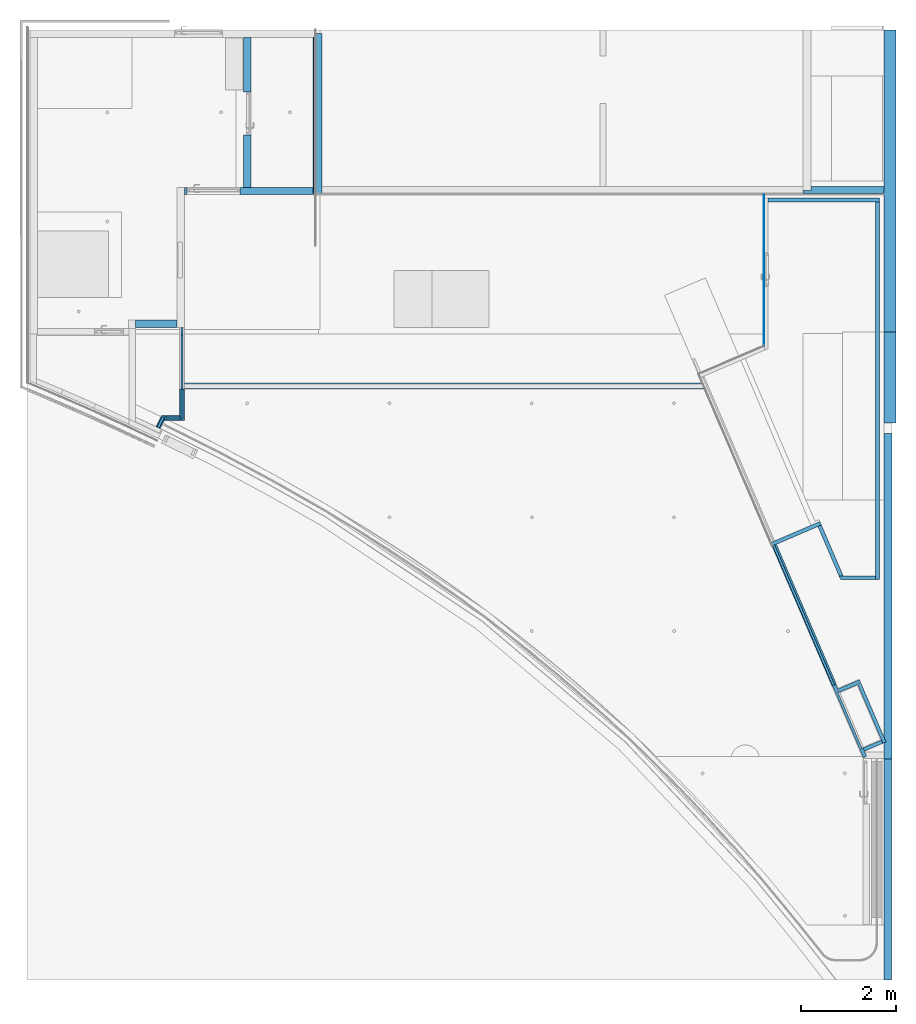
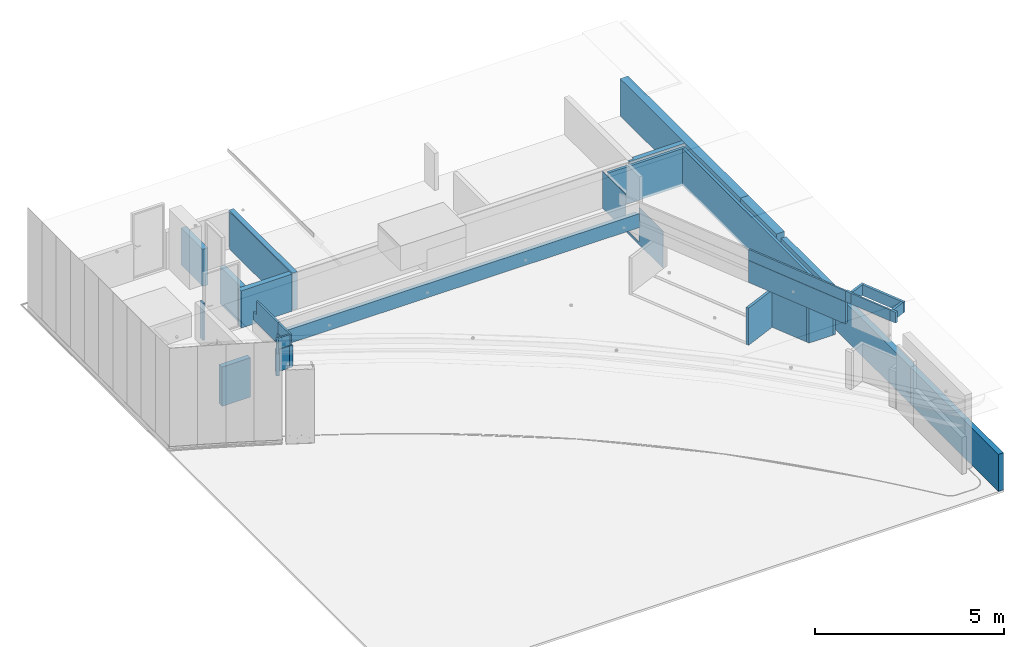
# One storey, part 5 of 16: 32 walls, 2 openings.
"""IFC2X3 building model written with IfcOpenShell, lengths in millimetres."""

from ifc_helpers import new_model, entity, si_unit, converted_unit, derived_unit, direction, frame, frame_2d, origin, origin_with_axes, origin_2d_with_axis, place, context, subcontext, project, spatial, polyline, rectangle, outline, extrude, clip, halfspace, bounded_halfspace, faceted_brep, material, layer, layer_set, layer_usage, type_object, element, save


model = new_model("IFC2X3")

# Units and contexts
model_context = context("Model", 3, precision=0.01, world=frame((0.0, 4.29681676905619e-09, 0.0)), true_north=direction((4.01073788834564e-13, 1.0)))
plan_context = context("Plan", 3, precision=0.01, world=frame((0.0, 4.29681676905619e-09, 0.0)), true_north=direction((4.01073788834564e-13, 1.0)))
body_context = subcontext(model_context, "Body", "Model", "MODEL_VIEW")
ifc_project = project(units=[converted_unit("PLANEANGLEUNIT", "DEGREE", entity("IfcPositiveLengthMeasure", 0.0174532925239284), si_unit("PLANEANGLEUNIT", "RADIAN"), dimensions=[0, 0, 0, 0, 0, 0, 0]), si_unit("AREAUNIT", "SQUARE_METRE"), si_unit("LENGTHUNIT", "METRE", prefix="MILLI"), si_unit("MASSUNIT", "GRAM", prefix="KILO"), si_unit("POWERUNIT", "WATT"), si_unit("PRESSUREUNIT", "PASCAL"), si_unit("FORCEUNIT", "NEWTON", prefix="KILO"), si_unit("ELECTRICCURRENTUNIT", "AMPERE"), si_unit("THERMODYNAMICTEMPERATUREUNIT", "DEGREE_CELSIUS"), si_unit("TIMEUNIT", "SECOND"), si_unit("VOLUMEUNIT", "CUBIC_METRE"), derived_unit("LINEARVELOCITYUNIT", [(si_unit("LENGTHUNIT", "METRE"), 1), (si_unit("TIMEUNIT", "SECOND"), -1)]), derived_unit("VOLUMETRICFLOWRATEUNIT", [(si_unit("VOLUMEUNIT", "CUBIC_METRE"), 1), (si_unit("TIMEUNIT", "SECOND"), -1)]), derived_unit("THERMALTRANSMITTANCEUNIT", [(si_unit("POWERUNIT", "WATT"), 1), (si_unit("THERMODYNAMICTEMPERATUREUNIT", "KELVIN"), -1), (si_unit("AREAUNIT", "SQUARE_METRE"), -1)])], contexts=[model_context, plan_context])

# Site, building, storey
site_placement = place(None, origin_with_axes())
site = spatial("IfcSite", under=ifc_project, at=site_placement, Name="ENGM", CompositionType="ELEMENT")
building_placement = place(site_placement, origin_with_axes())
building = spatial("IfcBuilding", under=site, at=building_placement, Name="TS", CompositionType="ELEMENT")
storey_placement = place(building_placement, frame((0.0, 0.0, 204000.0), z_axis=(0.0, 0.0, 1.0), x_axis=(1.0, 0.0, 0.0)))
storey = spatial("IfcBuildingStorey", under=building, at=storey_placement, Name="Nivå D", CompositionType="ELEMENT", Elevation=204000.0)

# Walls
ifc_material_1 = material(Name="Plate - Gips")
ifc_layer_1 = layer(ifc_material_1, 12.5)
ifc_layer_2 = layer(ifc_material_1, 12.5)
ifc_material_2 = material(Name="_NSW Stålstender, uisolert")
ifc_layer_3 = layer(ifc_material_2, 100.0)
ifc_layer_4 = layer(ifc_material_1, 12.5)
ifc_layer_5 = layer(ifc_material_1, 12.5)
ifc_layer_set_1 = layer_set([ifc_layer_1, ifc_layer_2, ifc_layer_3, ifc_layer_4, ifc_layer_5], Name="Basic Wall:A241 - SVS-101 (100/100 gg-gg)")
ifc_layer_usage_1 = layer_usage(ifc_layer_set_1, "AXIS2", "NEGATIVE", 75.0)
wall_type_1 = type_object("IfcWallType", Name="Basic Wall:A241 - SVS-101 (100/100 gg-gg)", PredefinedType="STANDARD", material=ifc_layer_set_1)
wall_1_placement = place(storey_placement, frame((520000.000000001, 417425.000000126, 0.0), z_axis=(0.0, 0.0, 1.0), x_axis=(0.0, 1.0, 0.0)))
element("IfcWallStandardCase", 1, at=wall_1_placement, inside=storey, type_object=wall_type_1, material=ifc_layer_usage_1, Name="Basic Wall:A241 - SVS-101 (100/100 gg-gg)", ObjectType="Basic Wall:A241 - SVS-101 (100/100 gg-gg)", context=body_context, shape_type="Clipping", body=[
    clip(extrude(rectangle(XDim=3369.99999987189, YDim=150.000000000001, at=frame_2d((1684.99999993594, -3.46531692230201e-11), x_axis=(-1.0, 0.0))), origin(), (0.0, 0.0, 1.0), 1200.0), halfspace(origin(), True)),
])
ifc_layer_6 = layer(ifc_material_1, 12.5)
ifc_layer_7 = layer(ifc_material_1, 12.5)
ifc_layer_8 = layer(ifc_material_2, 120.0)
ifc_layer_9 = layer(ifc_material_1, 12.5)
ifc_layer_10 = layer(ifc_material_1, 12.5)
ifc_layer_set_2 = layer_set([ifc_layer_6, ifc_layer_7, ifc_layer_8, ifc_layer_9, ifc_layer_10], Name="Basic Wall:A241 - SVS-121 (120/100x2 gg-gg S120 B=172mm)")
ifc_layer_usage_2 = layer_usage(ifc_layer_set_2, "AXIS2", "NEGATIVE", 85.0)
wall_type_2 = type_object("IfcWallType", Name="Basic Wall:A241 - SVS-121 (120/100x2 gg-gg S120 B=172mm)", PredefinedType="STANDARD", material=ifc_layer_set_2)
wall_2_placement = place(storey_placement, frame((532010.000000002, 405500.0, 0.0), z_axis=(0.0, 0.0, 1.0), x_axis=(0.0, 1.0, 0.0)))
element("IfcWallStandardCase", 2, at=wall_2_placement, inside=storey, type_object=wall_type_2, material=ifc_layer_usage_2, Name="Basic Wall:A241 - SVS-121 (120/100x2 gg-gg S120 B=172mm)", ObjectType="Basic Wall:A241 - SVS-121 (120/100x2 gg-gg S120 B=172mm)", context=body_context, shape_type="Clipping", body=[
    clip(extrude(rectangle(XDim=6864.50000000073, YDim=169.999999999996, at=frame_2d((3432.25000000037, 8.57625082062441e-12), x_axis=(-1.0, 0.0))), origin(), (0.0, 0.0, 1.0), 1200.0), halfspace(origin(), True)),
])
ifc_layer_11 = layer(ifc_material_1, 12.5)
ifc_layer_12 = layer(ifc_material_1, 12.5)
ifc_layer_13 = layer(ifc_material_2, 200.0)
ifc_layer_14 = layer(ifc_material_1, 12.5)
ifc_layer_15 = layer(ifc_material_1, 12.5)
ifc_layer_set_3 = layer_set([ifc_layer_11, ifc_layer_12, ifc_layer_13, ifc_layer_14, ifc_layer_15], Name="Basic Wall:A241 - SVS-200 (T1) (200/100x2 gg-gg)")
ifc_layer_usage_3 = layer_usage(ifc_layer_set_3, "AXIS2", "NEGATIVE", 125.0)
wall_type_3 = type_object("IfcWallType", Name="Basic Wall:A241 - SVS-200 (T1) (200/100x2 gg-gg)", PredefinedType="STANDARD", material=ifc_layer_set_3)
wall_3_placement = place(storey_placement, frame((532050.000000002, 412589.5, 0.0), z_axis=(0.0, 0.0, 1.0), x_axis=(0.0, 1.0, 0.0)))
element("IfcWallStandardCase", 3, at=wall_3_placement, inside=storey, type_object=wall_type_3, material=ifc_layer_usage_3, Name="Basic Wall:A241 - SVS-200 (T1) (200/100x2 gg-gg)", ObjectType="Basic Wall:A241 - SVS-200 (T1) (200/100x2 gg-gg)", context=body_context, shape_type="Clipping", body=[
    clip(extrude(rectangle(XDim=1912.49999999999, YDim=249.999999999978, at=frame_2d((956.249999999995, 1.98951966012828e-12), x_axis=(-1.0, 0.0))), origin(), (0.0, 0.0, 1.0), 1200.0), halfspace(origin(), True)),
])
wall_4_placement = place(storey_placement, frame((532050.000000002, 414502.0, 0.0), z_axis=(0.0, 0.0, 1.0), x_axis=(0.0, 1.0, 0.0)))
element("IfcWall", 4, at=wall_4_placement, inside=storey, type_object=wall_type_3, Name="Basic Wall:A241 - SVS-200 (T1) (200/100x2 gg-gg)", ObjectType="Basic Wall:A241 - SVS-200 (T1) (200/100x2 gg-gg)", context=body_context, shape_type="Brep", body=[
    faceted_brep([(6368.19145340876, 124.999999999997, 0.0), (6368.19145340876, 124.999999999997, 1200.0), (0.0, 124.999999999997, 1200.0), (0.0, 124.999999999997, 0.0), (0.0, -124.999999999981, 1200.0), (0.0, -124.999999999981, 0.0), (6368.19145340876, -124.999999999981, 1200.0), (6368.19145340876, -124.999999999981, 0.0)], [[[0, 1, 2, 3]], [[3, 2, 4, 5]], [[6, 7, 5, 4]], [[7, 0, 3, 5]], [[1, 6, 4, 2]], [[7, 6, 1, 0]]], orient=[[False], [False], [False], [False], [False], [False]]),
])
ifc_layer_16 = layer(ifc_material_1, 12.5)
ifc_layer_17 = layer(ifc_material_2, 75.0)
ifc_layer_18 = layer(ifc_material_1, 12.5)
ifc_layer_set_4 = layer_set([ifc_layer_16, ifc_layer_17, ifc_layer_18], Name="Basic Wall:A241 - skjørt (SVS-75 S)")
ifc_layer_usage_4 = layer_usage(ifc_layer_set_4, "AXIS2", "NEGATIVE", 50.0)
wall_type_4 = type_object("IfcWallType", Name="Basic Wall:A241 - skjørt (SVS-75 S)", PredefinedType="STANDARD", material=ifc_layer_set_4)
wall_5_placement = place(storey_placement, frame((517127.500000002, 412640.0954, 2040.0), z_axis=(0.0, 0.0, 1.0), x_axis=(0.0, 1.0, 0.0)))
element("IfcWallStandardCase", 5, at=wall_5_placement, inside=storey, type_object=wall_type_4, material=ifc_layer_usage_4, Name="Basic Wall:A241 - skjørt (SVS-75 S)", ObjectType="Basic Wall:A241 - skjørt (SVS-75 S)", context=body_context, shape_type="SweptSolid", body=[
    extrude(rectangle(XDim=660.063293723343, YDim=99.9999999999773, at=frame_2d((330.031646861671, 3.46531692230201e-11), x_axis=(-1.0, 0.0))), origin(), (0.0, 0.0, 1.0), 710.000000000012),
])
ifc_layer_usage_5 = layer_usage(ifc_layer_set_4, "AXIS2", "NEGATIVE", 50.0)
wall_6_placement = place(storey_placement, frame((516622.513138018, 412484.548432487, 2040.0), z_axis=(0.0, 0.0, 1.0), x_axis=(0.438371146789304, 0.898794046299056, 0.0)))
element("IfcWallStandardCase", 6, at=wall_6_placement, inside=storey, type_object=wall_type_4, material=ifc_layer_usage_5, Name="Basic Wall:A241 - skjørt (SVS-75 S)", ObjectType="Basic Wall:A241 - skjørt (SVS-75 S)", context=body_context, shape_type="SweptSolid", body=[
    extrude(outline(polyline([(308.708681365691, -50.0), (259.935422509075, 50.0), (0.0, 50.0), (0.0, -50.0), (197.448487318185, -50.0), (308.708681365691, -50.0)])), origin(), (0.0, 0.0, 1.0), 710.000000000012),
])
ifc_layer_usage_6 = layer_usage(ifc_layer_set_4, "AXIS2", "NEGATIVE", 50.0)
wall_7_placement = place(storey_placement, frame((516754.008560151, 412690.0954, 2040.0), z_axis=(0.0, 0.0, 1.0), x_axis=(1.0, 0.0, 0.0)))
element("IfcWallStandardCase", 7, at=wall_7_placement, inside=storey, type_object=wall_type_4, material=ifc_layer_usage_6, Name="Basic Wall:A241 - skjørt (SVS-75 S)", ObjectType="Basic Wall:A241 - skjørt (SVS-75 S)", context=body_context, shape_type="SweptSolid", body=[
    extrude(outline(polyline([(323.491439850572, -50.0), (323.491439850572, 50.0), (48.7732588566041, 50.0), (0.0, -50.0), (323.491439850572, -50.0)])), origin(), (0.0, 0.0, 1.0), 710.000000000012),
])
ifc_layer_usage_7 = layer_usage(ifc_layer_set_4, "AXIS2", "POSITIVE", -50.0)
wall_8_placement = place(storey_placement, frame((530872.211619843, 407064.566845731, 2040.0), z_axis=(0.0, 0.0, 1.0), x_axis=(-0.393941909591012, 0.919135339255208, 0.0)))
element("IfcWallStandardCase", 8, at=wall_8_placement, inside=storey, type_object=wall_type_4, material=ifc_layer_usage_7, Name="Basic Wall:A241 - skjørt (SVS-75 S)", ObjectType="Basic Wall:A241 - skjørt (SVS-75 S)", context=body_context, shape_type="SweptSolid", body=[
    extrude(rectangle(XDim=3204.20713448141, YDim=100.0, at=frame_2d((1602.10356724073, -1.83710824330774e-11), x_axis=(-1.0, 0.0))), origin(), (0.0, 0.0, 1.0), 710.000000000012),
])

# Wall, opening
ifc_layer_19 = layer(ifc_material_1, 12.5)
ifc_material_3 = material(Name="_NSW X-finer")
ifc_layer_20 = layer(ifc_material_3, 15.0)
ifc_material_4 = material(Name="_NSW Stålstender, isolert UTEN SKRAVUR")
ifc_layer_21 = layer(ifc_material_4, 100.0)
ifc_layer_22 = layer(ifc_material_3, 15.0)
ifc_layer_23 = layer(ifc_material_1, 12.5)
ifc_layer_set_5 = layer_set([ifc_layer_19, ifc_layer_20, ifc_layer_21, ifc_layer_22, ifc_layer_23], Name="Basic Wall:A241 - SXVXS-100")
wall_type_5 = type_object("IfcWallType", Name="Basic Wall:A241 - SXVXS-100", PredefinedType="STANDARD", material=ifc_layer_set_5)
wall_9_placement = place(storey_placement, frame((519897.500000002, 417475.000000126, 0.0), z_axis=(0.0, 0.0, 1.0), x_axis=(-1.0, 0.0, 0.0)))
wall_9 = element("IfcWall", 9, at=wall_9_placement, inside=storey, type_object=wall_type_5, Name="Basic Wall:A241 - SXVXS-100", ObjectType="Basic Wall:A241 - SXVXS-100", context=body_context, shape_type="Brep", body=[
    faceted_brep([(0.0, -77.5, 0.0), (1550.0, -77.5, 0.0), (1550.0, -77.5, 1200.0), (0.0, -77.5, 1200.0), (1550.0, 77.5, 0.0), (1550.0, 77.5, 1200.0), (0.0, 77.5, 0.0), (0.0, 77.5, 1200.0)], [[[0, 1, 2, 3]], [[1, 4, 5, 2]], [[1, 0, 6, 4]], [[6, 0, 3, 7]], [[3, 2, 5, 7]], [[4, 6, 7, 5]]]),
    faceted_brep([(2720.0, 77.5000000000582, 0.0), (2660.0, 77.5000000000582, 0.0), (2660.0, 77.5000000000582, 1200.0), (2720.0, 77.5000000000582, 1200.0), (2660.0, -77.4999999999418, 0.0), (2660.0, -77.5, 1200.0), (2720.0, -77.4999999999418, 0.0), (2720.0, -77.4999999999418, 1200.0)], [[[0, 1, 2, 3]], [[1, 4, 5, 2]], [[6, 0, 3, 7]], [[5, 7, 3, 2]], [[6, 4, 1, 0]], [[4, 6, 7, 5]]]),
])
opening_1_placement = place(wall_9_placement, frame((2660.0, 77.5000000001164, 0.0), z_axis=(0.0, 0.0, 1.0), x_axis=(1.0, 0.0, 0.0)))
element("IfcOpeningElement", 10, at=opening_1_placement, cuts=wall_9, Name="A20 - Slagdør - Enkel:A243 - DI_LTO - 1090 x 2090 mm:1", ObjectType="Opening", context=body_context, shape_type="SweptSolid", body=[
    extrude(rectangle(XDim=2109.99999999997, YDim=1110.0, at=frame_2d((1054.99999999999, 555.0), x_axis=(1.0, 0.0))), frame((0.0, 0.0, 0.0), z_axis=(0.0, -1.0, 0.0), x_axis=(0.0, 0.0, 1.0)), (0.0, 0.0, 1.0), 155.0),
])

# Wall
wall_10_placement = place(storey_placement, frame((517022.500000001, 414679.999999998, -70.0), z_axis=(0.0, 0.0, 1.0), x_axis=(-1.0, 0.0, 0.0)))
element("IfcWall", 11, at=wall_10_placement, inside=storey, type_object=wall_type_5, Name="Basic Wall:A241 - SXVXS-100", ObjectType="Basic Wall:A241 - SXVXS-100", context=body_context, shape_type="Brep", body=[
    faceted_brep([(0.0, -77.5, 0.0), (873.0, -77.5, 0.0), (873.0, -77.5, 1270.0), (0.0, -77.5, 1270.0), (0.0, 77.5, 0.0), (0.0, 77.5, 70.0), (0.0, 77.5, 1270.0), (873.0, 77.5, 1270.0), (873.0, 77.5, 0.0)], [[[0, 1, 2, 3]], [[4, 5, 6, 7, 8]], [[1, 8, 7, 2]], [[5, 4, 0, 3, 6]], [[1, 0, 4, 8]], [[3, 2, 7, 6]]]),
])

# Wall, opening
wall_11_placement = place(storey_placement, frame((518500.000000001, 420715.191453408, 0.0), z_axis=(0.0, 0.0, 1.0), x_axis=(0.0, -1.0, 0.0)))
wall_11 = element("IfcWall", 12, at=wall_11_placement, inside=storey, type_object=wall_type_5, Name="Basic Wall:A241 - SXVXS-100", ObjectType="Basic Wall:A241 - SXVXS-100", context=body_context, shape_type="SweptSolid", body=[
    extrude(rectangle(XDim=155.000000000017, YDim=1149.99999999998, at=origin_2d_with_axis()), frame((575.0, 0.0, 0.0), z_axis=(0.0, 0.0, 1.0), x_axis=(0.0, 1.0, 0.0)), (0.0, 0.0, 1.0), 1200.0),
    extrude(rectangle(XDim=155.000000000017, YDim=1102.69145328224, at=frame_2d((0.0, 3.46744855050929e-11), x_axis=(1.0, 0.0))), frame((2611.34572664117, 0.0, 0.0), z_axis=(0.0, 0.0, 1.0), x_axis=(0.0, 1.0, 0.0)), (0.0, 0.0, 1.0), 1200.0),
])
opening_2_placement = place(wall_11_placement, frame((1150.0, -77.5, 0.0), z_axis=(0.0, 0.0, 1.0), x_axis=(1.0, 0.0, 0.0)))
element("IfcOpeningElement", 13, at=opening_2_placement, cuts=wall_11, Name="A20 - Slagdør - Enkel:A243 - DI_LTO - 890 x 2090 mm:1", ObjectType="Opening", context=body_context, shape_type="SweptSolid", body=[
    extrude(rectangle(XDim=2109.99999999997, YDim=910.0, at=frame_2d((1054.99999999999, 455.000000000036), x_axis=(1.0, 0.0))), frame((0.0, 0.0, 0.0), z_axis=(0.0, 1.0, 0.0), x_axis=(0.0, 0.0, 1.0)), (0.0, 0.0, 1.0), 155.0),
])

# Walls
wall_12_placement = place(storey_placement, frame((532000.000000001, 405499.999999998, 0.0), z_axis=(0.0, 0.0, 1.0), x_axis=(0.0, -1.0, 0.0)))
element("IfcWall", 14, at=wall_12_placement, inside=storey, type_object=wall_type_5, Name="Basic Wall:A241 - SXVXS-100", ObjectType="Basic Wall:A241 - SXVXS-100", context=body_context, shape_type="Brep", body=[
    faceted_brep([(4654.32334104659, -77.500000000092, 1200.0), (4654.32334104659, -77.500000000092, 0.0), (0.0, -77.500000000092, 0.0), (0.0, -77.500000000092, 1200.0), (4654.32334104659, 77.4999999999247, 0.0), (4654.32334104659, 77.4999999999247, 1200.0), (0.0, 77.4999999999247, 1200.0), (0.0, 77.4999999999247, 0.0)], [[[0, 1, 2, 3]], [[4, 5, 6, 7]], [[7, 6, 3, 2]], [[1, 4, 7, 2]], [[5, 0, 3, 6]], [[5, 4, 1, 0]]], orient=[[False], [False], [False], [False], [False], [False]]),
])
ifc_layer_24 = layer(ifc_material_1, 12.5)
ifc_layer_25 = layer(ifc_material_2, 100.0)
ifc_layer_26 = layer(ifc_material_1, 12.5)
ifc_layer_set_6 = layer_set([ifc_layer_24, ifc_layer_25, ifc_layer_26], Name="Basic Wall:A241 - skjørt (SVS-100 S)")
wall_type_6 = type_object("IfcWallType", Name="Basic Wall:A241 - skjørt (SVS-100 S)", PredefinedType="STANDARD", material=ifc_layer_set_6)
wall_13_placement = place(storey_placement, frame((517177.500000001, 413362.500000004, 2300.0), z_axis=(0.0, 0.0, 1.0), x_axis=(1.0, 0.0, 0.0)))
element("IfcWall", 15, at=wall_13_placement, inside=storey, type_object=wall_type_6, Name="Basic Wall:A241 - skjørt (SVS-100 S)", ObjectType="Basic Wall:A241 - skjørt (SVS-100 S)", context=body_context, shape_type="Brep", body=[
    faceted_brep([(0.0, -62.4999999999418, 0.0), (10981.4023416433, -62.4999999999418, 0.0), (10981.4023416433, -62.4999999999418, 200.0), (10967.8026034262, -62.4999999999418, 200.0), (10967.8026034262, -62.4999999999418, 450.0), (0.0, -62.4999999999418, 450.0), (0.0, 62.5000000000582, 0.0), (0.0, 62.5000000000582, 450.0), (10914.2275349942, 62.5000000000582, 450.0), (10914.2275349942, 62.5000000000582, 200.0), (10927.8272732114, 62.5000000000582, 200.0), (10927.8272732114, 62.5000000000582, 0.0)], [[[0, 1, 2, 3, 4, 5]], [[6, 7, 8, 9, 10, 11]], [[1, 0, 6, 11]], [[5, 4, 8, 7]], [[0, 5, 7, 6]], [[9, 3, 2, 10]], [[2, 1, 11, 10]], [[4, 3, 9, 8]]]),
])
ifc_material_5 = material(Name="T2_Gips Protect F")
ifc_layer_27 = layer(ifc_material_5, 15.0)
ifc_layer_28 = layer(ifc_material_3, 15.0)
ifc_layer_29 = layer(ifc_material_2, 100.0)
ifc_layer_30 = layer(ifc_material_5, 15.0)
ifc_layer_set_7 = layer_set([ifc_layer_27, ifc_layer_28, ifc_layer_29, ifc_layer_30], Name="Basic Wall:A241 - FXVF-100 (100/100 pp-p)")
ifc_layer_usage_8 = layer_usage(ifc_layer_set_7, "AXIS2", "POSITIVE", -72.5)
wall_type_7 = type_object("IfcWallType", Name="Basic Wall:A241 - FXVF-100 (100/100 pp-p)", PredefinedType="STANDARD", material=ifc_layer_set_7)
wall_14_placement = place(storey_placement, frame((530217.51249987, 417497.500000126, 0.0), z_axis=(0.0, 0.0, 1.0), x_axis=(1.0, 0.0, 0.0)))
element("IfcWallStandardCase", 16, at=wall_14_placement, inside=storey, type_object=wall_type_7, material=ifc_layer_usage_8, Name="Basic Wall:A241 - FXVF-100 (100/100 pp-p)", ObjectType="Basic Wall:A241 - FXVF-100 (100/100 pp-p)", context=body_context, shape_type="Clipping", body=[
    clip(clip(clip(extrude(outline(polyline([(1707.48750013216, -72.4999999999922), (1707.48750013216, 72.4999999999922), (170.0, 72.4999999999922), (170.0, -7.49999999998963), (0.0, -7.49999999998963), (0.0, -72.4999999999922), (1707.48750013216, -72.4999999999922)])), origin(), (0.0, 0.0, 1.0), 1200.0), bounded_halfspace(frame((170.0, -7.49999999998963, 0.0), z_axis=(1.0, 0.0, 0.0), x_axis=(0.0, 1.0, 0.0)), True, frame((170.0, -7.49999999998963, 0.0), z_axis=(1.0, 0.0, 0.0), x_axis=(0.0, 1.0, 0.0)), polyline([(0.0, 0.0), (80.0, 0.0), (80.0, 2800.0), (0.0, 2800.0), (0.0, 0.0)]))), bounded_halfspace(frame((170.0, -7.49999999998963, 2800.0), z_axis=(0.0, -1.0, 0.0), x_axis=(1.0, 0.0, 0.0)), True, frame((170.0, -7.49999999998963, 2800.0), z_axis=(0.0, -1.0, 0.0), x_axis=(1.0, 0.0, 0.0)), polyline([(0.0, 0.0), (-170.0, 0.0), (-170.0, -2800.0), (0.0, -2800.0), (0.0, 0.0)]))), halfspace(origin(), True)),
])
ifc_material_6 = material(Name="_NSW Isolasjon trykkfast")
ifc_layer_31 = layer(ifc_material_6, 80.0)
ifc_layer_set_8 = layer_set([ifc_layer_31], Name="Basic Wall:A231 - ISO-80")
ifc_layer_usage_9 = layer_usage(ifc_layer_set_8, "AXIS2", "POSITIVE", -40.0)
wall_type_8 = type_object("IfcWallType", Name="Basic Wall:A231 - ISO-80", PredefinedType="STANDARD", material=ifc_layer_set_8)
wall_15_placement = place(storey_placement, frame((531825.352886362, 417284.994893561, 0.0), z_axis=(0.0, 0.0, 1.0), x_axis=(-1.0, 0.0, 0.0)))
element("IfcWallStandardCase", 17, at=wall_15_placement, inside=storey, type_object=wall_type_8, material=ifc_layer_usage_9, Name="Basic Wall:A231 - ISO-80", ObjectType="Basic Wall:A231 - ISO-80", context=body_context, shape_type="Clipping", body=[
    clip(extrude(rectangle(XDim=2345.35288636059, YDim=79.9999999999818, at=frame_2d((1172.67644318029, 2.66027200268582e-11), x_axis=(-1.0, 0.0))), origin(), (0.0, 0.0, 1.0), 1200.0), halfspace(origin(), True)),
])
ifc_layer_usage_10 = layer_usage(ifc_layer_set_8, "AXIS2", "POSITIVE", -40.0)
wall_16_placement = place(storey_placement, frame((531785.352886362, 409283.877103, 0.0), z_axis=(0.0, 0.0, 1.0), x_axis=(0.0, 1.0, 0.0)))
element("IfcWallStandardCase", 18, at=wall_16_placement, inside=storey, type_object=wall_type_8, material=ifc_layer_usage_10, Name="Basic Wall:A231 - ISO-80", ObjectType="Basic Wall:A231 - ISO-80", context=body_context, shape_type="Clipping", body=[
    clip(extrude(rectangle(XDim=7961.11779056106, YDim=79.9999999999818, at=frame_2d((3980.55889528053, -1.73976388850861e-11), x_axis=(-1.0, 0.0))), origin(), (0.0, 0.0, 1.0), 1200.0), halfspace(origin(), True)),
])
ifc_layer_usage_11 = layer_usage(ifc_layer_set_8, "AXIS2", "POSITIVE", -40.0)
wall_17_placement = place(storey_placement, frame((530976.240163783, 409323.877103, 0.0), z_axis=(0.0, 0.0, 1.0), x_axis=(1.0, 0.0, 0.0)))
element("IfcWallStandardCase", 19, at=wall_17_placement, inside=storey, type_object=wall_type_8, material=ifc_layer_usage_11, Name="Basic Wall:A231 - ISO-80", ObjectType="Basic Wall:A231 - ISO-80", context=body_context, shape_type="Clipping", body=[
    clip(extrude(outline(polyline([(769.112722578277, -40.0), (769.112722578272, 40.0), (87.0383245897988, 40.0), (0.0, 40.0), (34.2880437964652, -40.0), (769.112722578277, -40.0)])), origin(), (0.0, 0.0, 1.0), 1200.0), halfspace(origin(), True)),
])
ifc_layer_usage_12 = layer_usage(ifc_layer_set_8, "AXIS2", "POSITIVE", -40.0)
wall_18_placement = place(storey_placement, frame((529559.714890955, 410031.659449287, 0.0), z_axis=(0.0, 0.0, 1.0), x_axis=(0.91913533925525, 0.393941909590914, 0.0)))
element("IfcWallStandardCase", 20, at=wall_18_placement, inside=storey, type_object=wall_type_8, material=ifc_layer_usage_12, Name="Basic Wall:A231 - ISO-80", ObjectType="Basic Wall:A231 - ISO-80", context=body_context, shape_type="Clipping", body=[
    clip(extrude(rectangle(XDim=1118.91098451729, YDim=80.0000000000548, at=frame_2d((559.455492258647, -1.11413100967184e-11), x_axis=(-1.0, 0.0))), origin(), (0.0, 0.0, 1.0), 1200.0), halfspace(origin(), True)),
])
ifc_layer_usage_13 = layer_usage(ifc_layer_set_8, "AXIS2", "POSITIVE", -40.0)
wall_19_placement = place(storey_placement, frame((530567.137781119, 410419.922289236, 0.0), z_axis=(0.0, 0.0, 1.0), x_axis=(0.393941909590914, -0.91913533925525, 0.0)))
element("IfcWallStandardCase", 21, at=wall_19_placement, inside=storey, type_object=wall_type_8, material=ifc_layer_usage_13, Name="Basic Wall:A231 - ISO-80", ObjectType="Basic Wall:A231 - ISO-80", context=body_context, shape_type="Clipping", body=[
    clip(extrude(outline(polyline([(1131.81102436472, -40.0), (1166.09906816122, 40.0), (0.0, 40.0), (0.0, -40.0), (1131.81102436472, -40.0)])), origin(), (0.0, 0.0, 1.0), 1200.0), halfspace(origin(), True)),
])
ifc_layer_32 = layer(ifc_material_3, 15.0)
ifc_layer_33 = layer(ifc_material_1, 12.5)
ifc_layer_set_9 = layer_set([ifc_layer_32, ifc_layer_33], Name="Basic Wall:A241 - SX")
ifc_layer_usage_14 = layer_usage(ifc_layer_set_9, "AXIS2", "NEGATIVE", 13.75)
wall_type_9 = type_object("IfcWallType", Name="Basic Wall:A241 - SX", PredefinedType="STANDARD", material=ifc_layer_set_9)
wall_20_placement = place(storey_placement, frame((519911.250000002, 420715.191337, 0.0), z_axis=(0.0, 0.0, 1.0), x_axis=(0.0, -1.0, 0.0)))
element("IfcWallStandardCase", 22, at=wall_20_placement, inside=storey, type_object=wall_type_9, material=ifc_layer_usage_14, Name="Basic Wall:A241 - SX", ObjectType="Basic Wall:A241 - SX", context=body_context, shape_type="Clipping", body=[
    clip(extrude(rectangle(XDim=3290.1913368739, YDim=27.4999999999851, at=frame_2d((1645.09566843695, 0.0), x_axis=(-1.0, 0.0))), origin(), (0.0, 0.0, 1.0), 1200.0), halfspace(origin(), True)),
])
ifc_material_7 = material(Name="T2_Gips Standard")
ifc_layer_34 = layer(ifc_material_7, 12.5)
ifc_layer_set_10 = layer_set([ifc_layer_34], Name="Basic Wall:A241 - S (g-0)")
wall_type_10 = type_object("IfcWallType", Name="Basic Wall:A241 - S (g-0)", PredefinedType="STANDARD", material=ifc_layer_set_10)
wall_21_placement = place(storey_placement, frame((529393.750000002, 414200.9084662, 0.0), z_axis=(0.0, 0.0, 1.0), x_axis=(0.0, 1.0, 0.0)))
element("IfcWall", 23, at=wall_21_placement, inside=storey, type_object=wall_type_10, Name="Basic Wall:A241 - S (g-0)", ObjectType="Basic Wall:A241 - S (g-0)", context=body_context, shape_type="Brep", body=[
    faceted_brep([(5.35750684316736, -6.25, 0.0), (3196.59153392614, -6.25, 0.0), (3196.59153392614, -6.25, 1200.0), (1969.08642736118, -6.25, 1200.0), (1969.08642736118, -6.25, 80.0), (1259.08642736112, -6.25, 80.0), (1259.08642736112, -6.25, 1200.0), (5.35750684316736, -6.25, 1200.0), (1259.08642736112, 6.25, 80.0), (1969.08642736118, 6.25, 80.0), (1969.08642736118, 6.25, 1200.0), (3196.59153392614, 6.25, 1200.0), (3196.59153392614, 6.25, 0.0), (0.0, 6.25, 0.0), (0.0, 6.25, 1200.0), (1259.08642736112, 6.25, 1200.0)], [[[0, 1, 2, 3, 4, 5, 6, 7]], [[8, 9, 10, 11, 12, 13, 14, 15]], [[13, 0, 7, 14]], [[1, 0, 13, 12]], [[1, 12, 11, 2]], [[5, 4, 9, 8]], [[5, 8, 15, 6]], [[9, 4, 3, 10]], [[7, 6, 15, 14]], [[3, 2, 11, 10]]]),
])
ifc_layer_35 = layer(ifc_material_2, 75.0)
ifc_layer_set_11 = layer_set([ifc_layer_35], Name="Basic Wall:A241 - V-75")
ifc_layer_usage_15 = layer_usage(ifc_layer_set_11, "AXIS2", "NEGATIVE", 37.5)
wall_type_11 = type_object("IfcWallType", Name="Basic Wall:A241 - V-75", PredefinedType="STANDARD", material=ifc_layer_set_11)
wall_22_placement = place(storey_placement, frame((531523.456766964, 405545.098074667, 2750.0), z_axis=(0.0, 0.0, 1.0), x_axis=(-0.393941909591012, 0.919135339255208, 0.0)))
element("IfcWallStandardCase", 24, at=wall_22_placement, inside=storey, type_object=wall_type_11, material=ifc_layer_usage_15, Name="Basic Wall:A241 - V-75", ObjectType="Basic Wall:A241 - V-75", context=body_context, shape_type="SweptSolid", body=[
    extrude(rectangle(XDim=192.952134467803, YDim=74.9999999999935, at=frame_2d((96.4760672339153, 3.83657550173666e-11), x_axis=(-1.0, 0.0))), origin(), (0.0, 0.0, 1.0), 350.000000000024),
])
ifc_layer_usage_16 = layer_usage(ifc_layer_set_11, "AXIS2", "NEGATIVE", 37.5)
wall_23_placement = place(storey_placement, frame((531932.760788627, 405848.855454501, 2750.0), z_axis=(0.0, 0.0, 1.0), x_axis=(-0.393941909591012, 0.919135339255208, 0.0)))
element("IfcWallStandardCase", 25, at=wall_23_placement, inside=storey, type_object=wall_type_11, material=ifc_layer_usage_16, Name="Basic Wall:A241 - V-75", ObjectType="Basic Wall:A241 - V-75", context=body_context, shape_type="SweptSolid", body=[
    extrude(rectangle(XDim=1349.70469037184, YDim=74.9999999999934, at=frame_2d((674.852345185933, 6.03250782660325e-12), x_axis=(-1.0, 0.0))), origin(), (0.0, 0.0, 1.0), 350.000000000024),
])
ifc_layer_usage_17 = layer_usage(ifc_layer_set_11, "AXIS2", "NEGATIVE", 37.5)
wall_24_placement = place(storey_placement, frame((531496.685231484, 405702.752446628, 2750.0), z_axis=(0.0, 0.0, 1.0), x_axis=(0.919135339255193, 0.393941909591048, 0.0)))
element("IfcWallStandardCase", 26, at=wall_24_placement, inside=storey, type_object=wall_type_11, material=ifc_layer_usage_17, Name="Basic Wall:A241 - V-75", ObjectType="Basic Wall:A241 - V-75", context=body_context, shape_type="SweptSolid", body=[
    extrude(rectangle(XDim=420.868553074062, YDim=74.9999999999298, at=frame_2d((210.434276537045, 5.09885467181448e-11), x_axis=(-1.0, 0.0))), origin(), (0.0, 0.0, 1.0), 350.000000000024),
])
ifc_layer_usage_18 = layer_usage(ifc_layer_set_11, "AXIS2", "NEGATIVE", 37.5)
wall_25_placement = place(storey_placement, frame((530964.979988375, 406943.313725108, 2750.0), z_axis=(0.0, 0.0, 1.0), x_axis=(0.919135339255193, 0.393941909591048, 0.0)))
element("IfcWallStandardCase", 27, at=wall_25_placement, inside=storey, type_object=wall_type_11, material=ifc_layer_usage_18, Name="Basic Wall:A241 - V-75", ObjectType="Basic Wall:A241 - V-75", context=body_context, shape_type="SweptSolid", body=[
    extrude(rectangle(XDim=495.868553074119, YDim=74.9999999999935, at=frame_2d((247.934276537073, 3.55235840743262e-11), x_axis=(1.0, 0.0))), origin(), (0.0, 0.0, 1.0), 350.000000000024),
])
ifc_layer_usage_19 = layer_usage(ifc_layer_set_11, "AXIS2", "NEGATIVE", 37.5)
wall_26_placement = place(storey_placement, frame((530945.285234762, 406894.073328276, 2750.0), z_axis=(0.0, 0.0, 1.0), x_axis=(-0.393941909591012, 0.919135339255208, 0.0)))
element("IfcWallStandardCase", 28, at=wall_26_placement, inside=storey, type_object=wall_type_11, material=ifc_layer_usage_19, Name="Basic Wall:A241 - V-75", ObjectType="Basic Wall:A241 - V-75", context=body_context, shape_type="SweptSolid", body=[
    extrude(rectangle(XDim=185.493376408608, YDim=74.9999999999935, at=frame_2d((92.7466882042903, -2.97148972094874e-11), x_axis=(-1.0, 0.0))), origin(), (0.0, 0.0, 1.0), 350.000000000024),
])
ifc_layer_36 = layer(ifc_material_2, 50.0)
ifc_layer_set_12 = layer_set([ifc_layer_36], Name="Basic Wall:A241 - skjørt (V-75 S)")
ifc_layer_usage_20 = layer_usage(ifc_layer_set_12, "AXIS2", "NEGATIVE", 25.0)
wall_type_12 = type_object("IfcWallType", Name="Basic Wall:A241 - skjørt (V-75 S)", PredefinedType="STANDARD", material=ifc_layer_set_12)
wall_27_placement = place(storey_placement, frame((517127.500000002, 412665.0954, 2750.0), z_axis=(0.0, 0.0, 1.0), x_axis=(0.0, 1.0, 0.0)))
element("IfcWallStandardCase", 29, at=wall_27_placement, inside=storey, type_object=wall_type_12, material=ifc_layer_usage_20, Name="Basic Wall:A241 - skjørt (V-75 S)", ObjectType="Basic Wall:A241 - skjørt (V-75 S)", context=body_context, shape_type="SweptSolid", body=[
    extrude(rectangle(XDim=635.0632937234, YDim=50.0000000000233, at=frame_2d((317.5316468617, 0.0), x_axis=(-1.0, 0.0))), origin(), (0.0, 0.0, 1.0), 350.000000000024),
])
ifc_layer_usage_21 = layer_usage(ifc_layer_set_12, "AXIS2", "NEGATIVE", 25.0)
wall_28_placement = place(storey_placement, frame((516622.513138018, 412484.548432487, 2750.0), z_axis=(0.0, 0.0, 1.0), x_axis=(0.438371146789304, 0.898794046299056, 0.0)))
element("IfcWallStandardCase", 30, at=wall_28_placement, inside=storey, type_object=wall_type_12, material=ifc_layer_usage_21, Name="Basic Wall:A241 - skjørt (V-75 S)", ObjectType="Basic Wall:A241 - skjørt (V-75 S)", context=body_context, shape_type="SweptSolid", body=[
    extrude(outline(polyline([(268.700318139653, -25.0), (244.313688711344, 25.0), (0.0, 25.0), (0.0, -25.0), (213.070221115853, -25.0), (268.700318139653, -25.0)])), origin(), (0.0, 0.0, 1.0), 350.000000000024),
])
ifc_layer_usage_22 = layer_usage(ifc_layer_set_12, "AXIS2", "NEGATIVE", 25.0)
wall_29_placement = place(storey_placement, frame((516738.386826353, 412690.0954, 2750.0), z_axis=(0.0, 0.0, 1.0), x_axis=(1.0, 0.0, 0.0)))
element("IfcWallStandardCase", 31, at=wall_29_placement, inside=storey, type_object=wall_type_12, material=ifc_layer_usage_22, Name="Basic Wall:A241 - skjørt (V-75 S)", ObjectType="Basic Wall:A241 - skjørt (V-75 S)", context=body_context, shape_type="SweptSolid", body=[
    extrude(outline(polyline([(364.113173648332, -25.0), (364.113173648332, 25.0), (24.3866294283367, 25.0), (0.0, -25.0), (364.113173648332, -25.0)])), origin(), (0.0, 0.0, 1.0), 350.000000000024),
])
wall_30_placement = place(storey_placement, frame((517127.500000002, 413300.158693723, 2400.0), z_axis=(0.0, 0.0, 1.0), x_axis=(0.0, 1.0, 0.0)))
element("IfcWall", 32, at=wall_30_placement, inside=storey, type_object=wall_type_12, Name="Basic Wall:A241 - skjørt (V-75 S)", ObjectType="Basic Wall:A241 - skjørt (V-75 S)", context=body_context, shape_type="Brep", body=[
    faceted_brep([(0.0, -25.0, 700.0), (0.0, -25.0, 350.0), (0.0, -25.0, 0.0), (1302.3413062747, -25.0, 0.0), (1302.3413062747, -25.0, 260.0), (1144.84130640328, -25.0, 260.0), (1144.84130640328, -25.0, 700.0), (0.0, 25.0, 0.0), (0.0, 25.0, 350.0), (0.0, 25.0, 700.0), (1144.84130640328, 25.0, 700.0), (1144.84130640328, 25.0, 260.0), (1302.3413062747, 25.0, 260.0), (1302.3413062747, 25.0, 0.0)], [[[0, 1, 2, 3, 4, 5, 6]], [[7, 8, 9, 10, 11, 12, 13]], [[3, 2, 7, 13]], [[4, 3, 13, 12]], [[0, 6, 10, 9]], [[5, 4, 12, 11]], [[6, 5, 11, 10]], [[0, 9, 8, 7, 2, 1]]]),
])
ifc_layer_usage_23 = layer_usage(ifc_layer_set_12, "AXIS2", "NEGATIVE", 25.0)
wall_31_placement = place(storey_placement, frame((530860.722428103, 407059.642571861, 2750.0), z_axis=(0.0, 0.0, 1.0), x_axis=(-0.393941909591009, 0.919135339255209, 0.0)))
element("IfcWallStandardCase", 33, at=wall_31_placement, inside=storey, type_object=wall_type_12, material=ifc_layer_usage_23, Name="Basic Wall:A241 - skjørt (V-75 S)", ObjectType="Basic Wall:A241 - skjørt (V-75 S)", context=body_context, shape_type="SweptSolid", body=[
    extrude(rectangle(XDim=3204.20713448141, YDim=49.9999999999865, at=frame_2d((1602.10356724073, -1.37116984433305e-11), x_axis=(-1.0, 0.0))), origin(), (0.0, 0.0, 1.0), 350.000000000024),
])
ifc_layer_usage_24 = layer_usage(ifc_layer_set_12, "AXIS2", "NEGATIVE", 25.0)
wall_32_placement = place(storey_placement, frame((531435.955642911, 405717.522926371, 2750.0), z_axis=(0.0, 0.0, 1.0), x_axis=(-0.393941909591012, 0.919135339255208, 0.0)))
element("IfcWallStandardCase", 34, at=wall_32_placement, inside=storey, type_object=wall_type_12, material=ifc_layer_usage_24, Name="Basic Wall:A241 - skjørt (V-75 S)", ObjectType="Basic Wall:A241 - skjørt (V-75 S)", context=body_context, shape_type="SweptSolid", body=[
    extrude(rectangle(XDim=1274.70469037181, YDim=49.9999999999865, at=frame_2d((637.352345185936, 6.3895555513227e-12), x_axis=(-1.0, 0.0))), origin(), (0.0, 0.0, 1.0), 350.000000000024),
])

save(model, "model.ifc")
